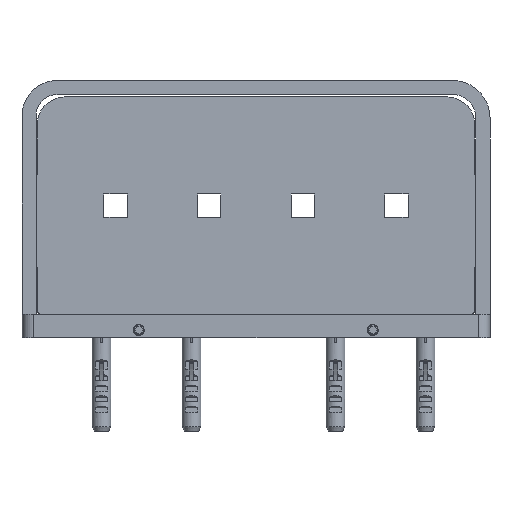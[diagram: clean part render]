
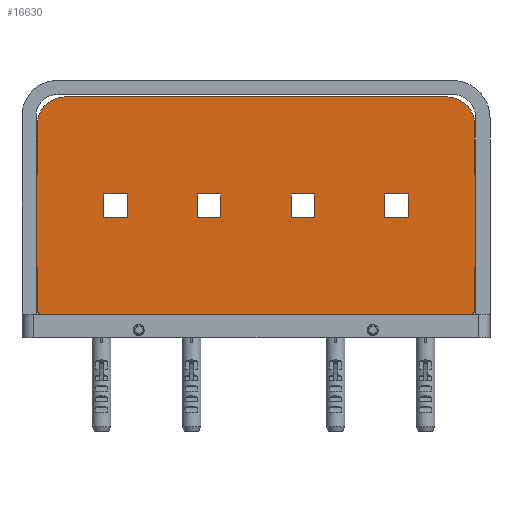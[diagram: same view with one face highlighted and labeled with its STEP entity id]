
A CAD part, front view. The second image highlights one B-rep face of the part: STEP entity #16630.
In plain terms, the highlighted planar face has unit normal (0, -1, 0).
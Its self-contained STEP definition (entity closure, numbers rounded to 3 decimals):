
#140=FACE_BOUND('',#2422,.T.);
#141=FACE_BOUND('',#2423,.T.);
#142=FACE_BOUND('',#2424,.T.);
#143=FACE_BOUND('',#2425,.T.);
#608=PLANE('',#17677);
#1439=FACE_OUTER_BOUND('',#2421,.T.);
#2421=EDGE_LOOP('',(#13860,#13861,#13862,#13863,#13864,#13865,#13866,#13867,
#13868,#13869,#13870,#13871,#13872,#13873,#13874,#13875));
#2422=EDGE_LOOP('',(#13876,#13877,#13878,#13879));
#2423=EDGE_LOOP('',(#13880,#13881,#13882,#13883));
#2424=EDGE_LOOP('',(#13884,#13885,#13886,#13887));
#2425=EDGE_LOOP('',(#13888,#13889,#13890,#13891));
#3023=CIRCLE('',#17678,2.);
#3024=CIRCLE('',#17679,12.);
#3025=CIRCLE('',#17680,12.);
#3026=CIRCLE('',#17681,2.);
#4717=LINE('',#76370,#6083);
#4718=LINE('',#76372,#6084);
#4719=LINE('',#76374,#6085);
#4720=LINE('',#76376,#6086);
#4721=LINE('',#76378,#6087);
#4722=LINE('',#76382,#6088);
#4723=LINE('',#76386,#6089);
#4724=LINE('',#76388,#6090);
#4725=LINE('',#76390,#6091);
#4726=LINE('',#76392,#6092);
#4727=LINE('',#76394,#6093);
#4728=LINE('',#76397,#6094);
#4729=LINE('',#76400,#6095);
#4730=LINE('',#76402,#6096);
#4731=LINE('',#76404,#6097);
#4732=LINE('',#76405,#6098);
#4733=LINE('',#76408,#6099);
#4734=LINE('',#76410,#6100);
#4735=LINE('',#76412,#6101);
#4736=LINE('',#76413,#6102);
#4737=LINE('',#76416,#6103);
#4738=LINE('',#76418,#6104);
#4739=LINE('',#76420,#6105);
#4740=LINE('',#76421,#6106);
#4741=LINE('',#76424,#6107);
#4742=LINE('',#76426,#6108);
#4743=LINE('',#76428,#6109);
#4744=LINE('',#76429,#6110);
#6083=VECTOR('',#20281,18.);
#6084=VECTOR('',#20282,3.);
#6085=VECTOR('',#20283,40.);
#6086=VECTOR('',#20284,3.);
#6087=VECTOR('',#20285,21.);
#6088=VECTOR('',#20288,163.);
#6089=VECTOR('',#20291,21.);
#6090=VECTOR('',#20292,3.);
#6091=VECTOR('',#20293,40.);
#6092=VECTOR('',#20294,3.);
#6093=VECTOR('',#20295,18.);
#6094=VECTOR('',#20298,183.);
#6095=VECTOR('',#20299,10.);
#6096=VECTOR('',#20300,10.);
#6097=VECTOR('',#20301,10.);
#6098=VECTOR('',#20302,10.);
#6099=VECTOR('',#20303,10.);
#6100=VECTOR('',#20304,10.);
#6101=VECTOR('',#20305,10.);
#6102=VECTOR('',#20306,10.);
#6103=VECTOR('',#20307,10.);
#6104=VECTOR('',#20308,10.);
#6105=VECTOR('',#20309,10.);
#6106=VECTOR('',#20310,10.);
#6107=VECTOR('',#20311,10.);
#6108=VECTOR('',#20312,10.);
#6109=VECTOR('',#20313,10.);
#6110=VECTOR('',#20314,10.);
#7667=VERTEX_POINT('',#76366);
#7668=VERTEX_POINT('',#76367);
#7669=VERTEX_POINT('',#76369);
#7670=VERTEX_POINT('',#76371);
#7671=VERTEX_POINT('',#76373);
#7672=VERTEX_POINT('',#76375);
#7673=VERTEX_POINT('',#76377);
#7674=VERTEX_POINT('',#76379);
#7675=VERTEX_POINT('',#76381);
#7676=VERTEX_POINT('',#76383);
#7677=VERTEX_POINT('',#76385);
#7678=VERTEX_POINT('',#76387);
#7679=VERTEX_POINT('',#76389);
#7680=VERTEX_POINT('',#76391);
#7681=VERTEX_POINT('',#76393);
#7682=VERTEX_POINT('',#76395);
#7683=VERTEX_POINT('',#76398);
#7684=VERTEX_POINT('',#76399);
#7685=VERTEX_POINT('',#76401);
#7686=VERTEX_POINT('',#76403);
#7687=VERTEX_POINT('',#76406);
#7688=VERTEX_POINT('',#76407);
#7689=VERTEX_POINT('',#76409);
#7690=VERTEX_POINT('',#76411);
#7691=VERTEX_POINT('',#76414);
#7692=VERTEX_POINT('',#76415);
#7693=VERTEX_POINT('',#76417);
#7694=VERTEX_POINT('',#76419);
#7695=VERTEX_POINT('',#76422);
#7696=VERTEX_POINT('',#76423);
#7697=VERTEX_POINT('',#76425);
#7698=VERTEX_POINT('',#76427);
#9836=EDGE_CURVE('',#7667,#7668,#3023,.T.);
#9837=EDGE_CURVE('',#7669,#7668,#4717,.T.);
#9838=EDGE_CURVE('',#7670,#7669,#4718,.T.);
#9839=EDGE_CURVE('',#7671,#7670,#4719,.T.);
#9840=EDGE_CURVE('',#7672,#7671,#4720,.T.);
#9841=EDGE_CURVE('',#7673,#7672,#4721,.T.);
#9842=EDGE_CURVE('',#7673,#7674,#3024,.T.);
#9843=EDGE_CURVE('',#7675,#7674,#4722,.T.);
#9844=EDGE_CURVE('',#7675,#7676,#3025,.T.);
#9845=EDGE_CURVE('',#7677,#7676,#4723,.T.);
#9846=EDGE_CURVE('',#7678,#7677,#4724,.T.);
#9847=EDGE_CURVE('',#7679,#7678,#4725,.T.);
#9848=EDGE_CURVE('',#7680,#7679,#4726,.T.);
#9849=EDGE_CURVE('',#7681,#7680,#4727,.T.);
#9850=EDGE_CURVE('',#7681,#7682,#3026,.T.);
#9851=EDGE_CURVE('',#7667,#7682,#4728,.T.);
#9852=EDGE_CURVE('',#7683,#7684,#4729,.T.);
#9853=EDGE_CURVE('',#7684,#7685,#4730,.T.);
#9854=EDGE_CURVE('',#7685,#7686,#4731,.T.);
#9855=EDGE_CURVE('',#7686,#7683,#4732,.T.);
#9856=EDGE_CURVE('',#7687,#7688,#4733,.T.);
#9857=EDGE_CURVE('',#7688,#7689,#4734,.T.);
#9858=EDGE_CURVE('',#7689,#7690,#4735,.T.);
#9859=EDGE_CURVE('',#7690,#7687,#4736,.T.);
#9860=EDGE_CURVE('',#7691,#7692,#4737,.T.);
#9861=EDGE_CURVE('',#7692,#7693,#4738,.T.);
#9862=EDGE_CURVE('',#7693,#7694,#4739,.T.);
#9863=EDGE_CURVE('',#7694,#7691,#4740,.T.);
#9864=EDGE_CURVE('',#7695,#7696,#4741,.T.);
#9865=EDGE_CURVE('',#7696,#7697,#4742,.T.);
#9866=EDGE_CURVE('',#7697,#7698,#4743,.T.);
#9867=EDGE_CURVE('',#7698,#7695,#4744,.T.);
#13860=ORIENTED_EDGE('',*,*,#9836,.T.);
#13861=ORIENTED_EDGE('',*,*,#9837,.F.);
#13862=ORIENTED_EDGE('',*,*,#9838,.F.);
#13863=ORIENTED_EDGE('',*,*,#9839,.F.);
#13864=ORIENTED_EDGE('',*,*,#9840,.F.);
#13865=ORIENTED_EDGE('',*,*,#9841,.F.);
#13866=ORIENTED_EDGE('',*,*,#9842,.T.);
#13867=ORIENTED_EDGE('',*,*,#9843,.F.);
#13868=ORIENTED_EDGE('',*,*,#9844,.T.);
#13869=ORIENTED_EDGE('',*,*,#9845,.F.);
#13870=ORIENTED_EDGE('',*,*,#9846,.F.);
#13871=ORIENTED_EDGE('',*,*,#9847,.F.);
#13872=ORIENTED_EDGE('',*,*,#9848,.F.);
#13873=ORIENTED_EDGE('',*,*,#9849,.F.);
#13874=ORIENTED_EDGE('',*,*,#9850,.T.);
#13875=ORIENTED_EDGE('',*,*,#9851,.F.);
#13876=ORIENTED_EDGE('',*,*,#9852,.T.);
#13877=ORIENTED_EDGE('',*,*,#9853,.T.);
#13878=ORIENTED_EDGE('',*,*,#9854,.T.);
#13879=ORIENTED_EDGE('',*,*,#9855,.T.);
#13880=ORIENTED_EDGE('',*,*,#9856,.T.);
#13881=ORIENTED_EDGE('',*,*,#9857,.T.);
#13882=ORIENTED_EDGE('',*,*,#9858,.T.);
#13883=ORIENTED_EDGE('',*,*,#9859,.T.);
#13884=ORIENTED_EDGE('',*,*,#9860,.T.);
#13885=ORIENTED_EDGE('',*,*,#9861,.T.);
#13886=ORIENTED_EDGE('',*,*,#9862,.T.);
#13887=ORIENTED_EDGE('',*,*,#9863,.T.);
#13888=ORIENTED_EDGE('',*,*,#9864,.T.);
#13889=ORIENTED_EDGE('',*,*,#9865,.T.);
#13890=ORIENTED_EDGE('',*,*,#9866,.T.);
#13891=ORIENTED_EDGE('',*,*,#9867,.T.);
#16630=ADVANCED_FACE('',(#1439,#140,#141,#142,#143),#608,.F.);
#17677=AXIS2_PLACEMENT_3D('',#76365,#20277,#20278);
#17678=AXIS2_PLACEMENT_3D('',#76368,#20279,#20280);
#17679=AXIS2_PLACEMENT_3D('',#76380,#20286,#20287);
#17680=AXIS2_PLACEMENT_3D('',#76384,#20289,#20290);
#17681=AXIS2_PLACEMENT_3D('',#76396,#20296,#20297);
#20277=DIRECTION('center_axis',(0.,1.,0.));
#20278=DIRECTION('ref_axis',(1.,0.,0.));
#20279=DIRECTION('center_axis',(0.,-1.,0.));
#20280=DIRECTION('ref_axis',(0.,0.,-1.));
#20281=DIRECTION('',(0.,0.,-1.));
#20282=DIRECTION('',(-1.,0.,0.));
#20283=DIRECTION('',(0.,0.,-1.));
#20284=DIRECTION('',(1.,0.,0.));
#20285=DIRECTION('',(0.,0.,-1.));
#20286=DIRECTION('center_axis',(0.,-1.,0.));
#20287=DIRECTION('ref_axis',(1.,0.,0.));
#20288=DIRECTION('',(1.,0.,0.));
#20289=DIRECTION('center_axis',(0.,-1.,0.));
#20290=DIRECTION('ref_axis',(0.,0.,1.));
#20291=DIRECTION('',(0.,0.,1.));
#20292=DIRECTION('',(1.,0.,0.));
#20293=DIRECTION('',(0.,0.,1.));
#20294=DIRECTION('',(-1.,0.,0.));
#20295=DIRECTION('',(0.,0.,1.));
#20296=DIRECTION('center_axis',(0.,-1.,0.));
#20297=DIRECTION('ref_axis',(-1.,0.,0.));
#20298=DIRECTION('',(-1.,0.,0.));
#20299=DIRECTION('',(-1.,0.,0.));
#20300=DIRECTION('',(0.,0.,1.));
#20301=DIRECTION('',(1.,0.,0.));
#20302=DIRECTION('',(0.,0.,-1.));
#20303=DIRECTION('',(-1.,0.,0.));
#20304=DIRECTION('',(0.,0.,1.));
#20305=DIRECTION('',(1.,0.,0.));
#20306=DIRECTION('',(0.,0.,-1.));
#20307=DIRECTION('',(0.,0.,-1.));
#20308=DIRECTION('',(-1.,0.,0.));
#20309=DIRECTION('',(0.,0.,1.));
#20310=DIRECTION('',(1.,0.,0.));
#20311=DIRECTION('',(0.,0.,-1.));
#20312=DIRECTION('',(-1.,0.,0.));
#20313=DIRECTION('',(0.,0.,1.));
#20314=DIRECTION('',(1.,0.,0.));
#76365=CARTESIAN_POINT('Origin',(0.,306.,-56.5));
#76366=CARTESIAN_POINT('',(91.5,306.,-103.));
#76367=CARTESIAN_POINT('',(93.5,306.,-101.));
#76368=CARTESIAN_POINT('Origin',(91.5,306.,-101.));
#76369=CARTESIAN_POINT('',(93.5,306.,-83.));
#76370=CARTESIAN_POINT('',(93.5,306.,-83.));
#76371=CARTESIAN_POINT('',(96.5,306.,-83.));
#76372=CARTESIAN_POINT('',(96.5,306.,-83.));
#76373=CARTESIAN_POINT('',(96.5,306.,-43.));
#76374=CARTESIAN_POINT('',(96.5,306.,-43.));
#76375=CARTESIAN_POINT('',(93.5,306.,-43.));
#76376=CARTESIAN_POINT('',(93.5,306.,-43.));
#76377=CARTESIAN_POINT('',(93.5,306.,-22.));
#76378=CARTESIAN_POINT('',(93.5,306.,-22.));
#76379=CARTESIAN_POINT('',(81.5,306.,-10.));
#76380=CARTESIAN_POINT('Origin',(81.5,306.,-22.));
#76381=CARTESIAN_POINT('',(-81.5,306.,-10.));
#76382=CARTESIAN_POINT('',(-81.5,306.,-10.));
#76383=CARTESIAN_POINT('',(-93.5,306.,-22.));
#76384=CARTESIAN_POINT('Origin',(-81.5,306.,-22.));
#76385=CARTESIAN_POINT('',(-93.5,306.,-43.));
#76386=CARTESIAN_POINT('',(-93.5,306.,-43.));
#76387=CARTESIAN_POINT('',(-96.5,306.,-43.));
#76388=CARTESIAN_POINT('',(-96.5,306.,-43.));
#76389=CARTESIAN_POINT('',(-96.5,306.,-83.));
#76390=CARTESIAN_POINT('',(-96.5,306.,-83.));
#76391=CARTESIAN_POINT('',(-93.5,306.,-83.));
#76392=CARTESIAN_POINT('',(-93.5,306.,-83.));
#76393=CARTESIAN_POINT('',(-93.5,306.,-101.));
#76394=CARTESIAN_POINT('',(-93.5,306.,-101.));
#76395=CARTESIAN_POINT('',(-91.5,306.,-103.));
#76396=CARTESIAN_POINT('Origin',(-91.5,306.,-101.));
#76397=CARTESIAN_POINT('',(91.5,306.,-103.));
#76398=CARTESIAN_POINT('',(25.,306.,-61.5));
#76399=CARTESIAN_POINT('',(15.,306.,-61.5));
#76400=CARTESIAN_POINT('',(25.,306.,-61.5));
#76401=CARTESIAN_POINT('',(15.,306.,-51.5));
#76402=CARTESIAN_POINT('',(15.,306.,-61.5));
#76403=CARTESIAN_POINT('',(25.,306.,-51.5));
#76404=CARTESIAN_POINT('',(15.,306.,-51.5));
#76405=CARTESIAN_POINT('',(25.,306.,-51.5));
#76406=CARTESIAN_POINT('',(65.,306.,-61.5));
#76407=CARTESIAN_POINT('',(55.,306.,-61.5));
#76408=CARTESIAN_POINT('',(65.,306.,-61.5));
#76409=CARTESIAN_POINT('',(55.,306.,-51.5));
#76410=CARTESIAN_POINT('',(55.,306.,-61.5));
#76411=CARTESIAN_POINT('',(65.,306.,-51.5));
#76412=CARTESIAN_POINT('',(55.,306.,-51.5));
#76413=CARTESIAN_POINT('',(65.,306.,-51.5));
#76414=CARTESIAN_POINT('',(-55.,306.,-51.5));
#76415=CARTESIAN_POINT('',(-55.,306.,-61.5));
#76416=CARTESIAN_POINT('',(-55.,306.,-51.5));
#76417=CARTESIAN_POINT('',(-65.,306.,-61.5));
#76418=CARTESIAN_POINT('',(-55.,306.,-61.5));
#76419=CARTESIAN_POINT('',(-65.,306.,-51.5));
#76420=CARTESIAN_POINT('',(-65.,306.,-61.5));
#76421=CARTESIAN_POINT('',(-65.,306.,-51.5));
#76422=CARTESIAN_POINT('',(-15.,306.,-51.5));
#76423=CARTESIAN_POINT('',(-15.,306.,-61.5));
#76424=CARTESIAN_POINT('',(-15.,306.,-51.5));
#76425=CARTESIAN_POINT('',(-25.,306.,-61.5));
#76426=CARTESIAN_POINT('',(-15.,306.,-61.5));
#76427=CARTESIAN_POINT('',(-25.,306.,-51.5));
#76428=CARTESIAN_POINT('',(-25.,306.,-61.5));
#76429=CARTESIAN_POINT('',(-25.,306.,-51.5));
